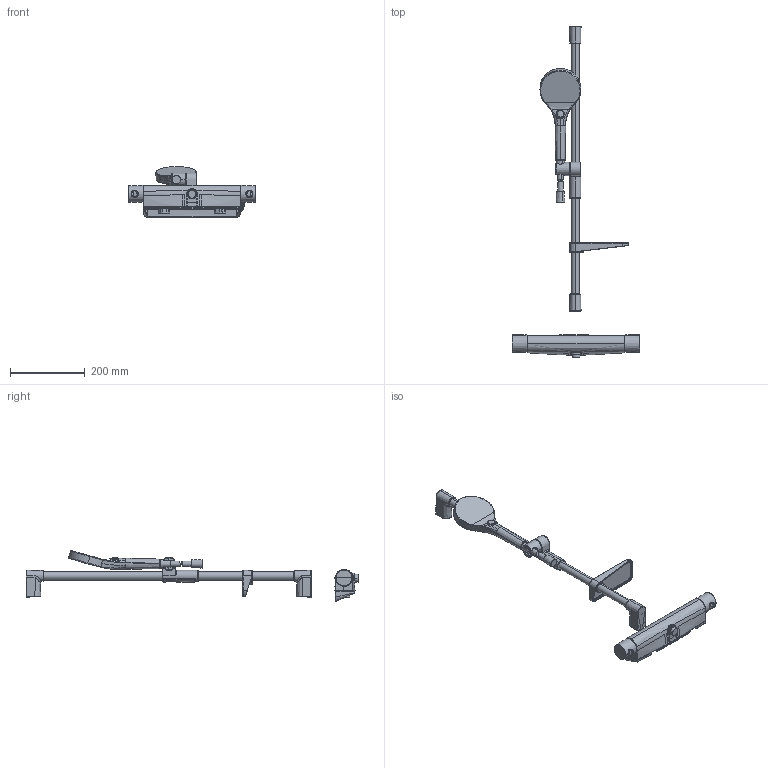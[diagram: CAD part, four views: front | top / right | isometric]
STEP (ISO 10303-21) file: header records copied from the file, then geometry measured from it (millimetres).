
FILE_DESCRIPTION (( 'STEP AP203' ), '1' );
FILE_NAME ('7169N(2023).STEP', '2023-03-27T04:59:24', ( '' ), ( '' ), 'SwSTEP 2.0', 'SolidWorks 2016', '' );
FILE_SCHEMA (( 'CONFIG_CONTROL_DESIGN' ));
Length unit declared in the file: millimetre
Products named in the file (1): 7169N(2023)
Bounding box: 342.5 x 890.21 x 135.87 mm (x, y, z)
Surface area: 311158.9 mm2 (no closed solid volume)
Topology: 0 solids, 21 shells, 1146 faces, 2814 edges, 1668 vertices
Faces by surface type: bspline 689, plane 164, cylinder 155, cone 96, torus 30, sphere 12
Entity records: 80677 total; most frequent: CARTESIAN_POINT 59522, ORIENTED_EDGE 5522, EDGE_CURVE 2763, DIRECTION 2716, VERTEX_POINT 1669, B_SPLINE_CURVE_WITH_KNOTS 1514, EDGE_LOOP 1166, FACE_OUTER_BOUND 1146
